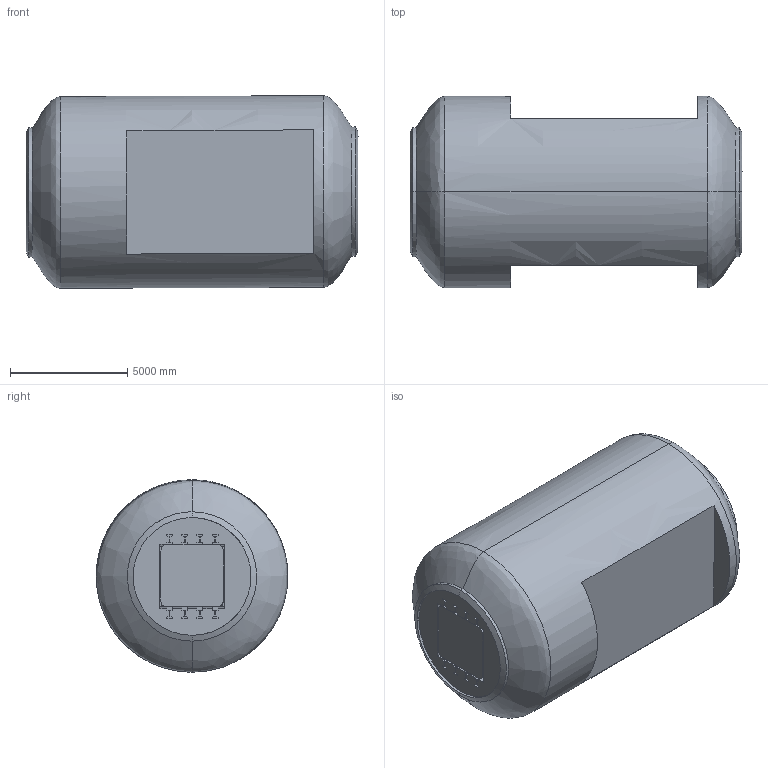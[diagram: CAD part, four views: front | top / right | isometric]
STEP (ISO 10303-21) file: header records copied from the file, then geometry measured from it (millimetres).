
FILE_DESCRIPTION(/* description */ (''),/* implementation_level */ '2;1');
FILE_NAME(/* name */ 'NTF_TestSection_Baseline_2023_10_02.stp',/* time_stamp */ '2023-10-02T14:24:04-04:00',/* author */ (''),/* organization */ (''),/* preprocessor_version */ 'ST-DEVELOPER v16.7',/* originating_system */ 'SIEMENS PLM Software NX 12.0',/* authorisation */ '');
FILE_SCHEMA (('AUTOMOTIVE_DESIGN { 1 0 10303 214 3 1 1 1 }'));
Products named in the file (1): sbry3178F678wn2a
Bounding box: 14172.35 x 8175.54 x 8217.24 mm (x, y, z)
Volume: 611265560218.4 mm3; surface area: 832307810.8 mm2
Topology: 1 solids, 1 shells, 830 faces, 2494 edges, 1620 vertices
Faces by surface type: plane 516, bspline 242, cylinder 66, cone 4, torus 2
Entity records: 88684 total; most frequent: CARTESIAN_POINT 68637, ORIENTED_EDGE 4998, DIRECTION 2979, EDGE_CURVE 2499, VERTEX_POINT 1625, LINE 1427, VECTOR 1427, EDGE_LOOP 848
